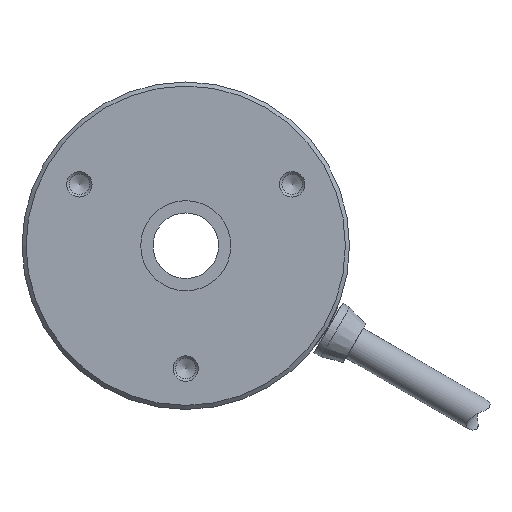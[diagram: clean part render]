
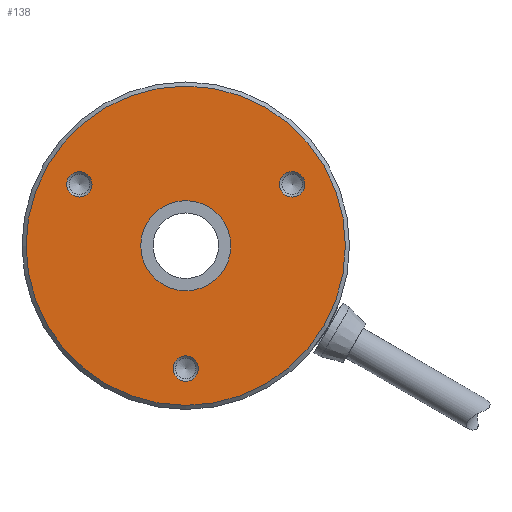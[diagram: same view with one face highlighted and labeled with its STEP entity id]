
A CAD part, left-side view. The second image highlights one B-rep face of the part: STEP entity #138.
In plain terms, the highlighted planar face has unit normal (-1, 0, 0).
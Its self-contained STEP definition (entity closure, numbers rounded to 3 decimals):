
#138=ADVANCED_FACE('',(#257,#258,#259,#260,#261),#262,.F.);
#257=FACE_BOUND('',#397,.T.);
#258=FACE_BOUND('',#398,.T.);
#259=FACE_BOUND('',#399,.T.);
#260=FACE_BOUND('',#400,.T.);
#261=FACE_OUTER_BOUND('',#401,.T.);
#262=PLANE('',#402);
#397=EDGE_LOOP('',(#563));
#398=EDGE_LOOP('',(#564));
#399=EDGE_LOOP('',(#565));
#400=EDGE_LOOP('',(#566));
#401=EDGE_LOOP('',(#567));
#402=AXIS2_PLACEMENT_3D('',#568,#569,#570);
#563=ORIENTED_EDGE('',*,*,#717,.T.);
#564=ORIENTED_EDGE('',*,*,#747,.T.);
#565=ORIENTED_EDGE('',*,*,#748,.T.);
#566=ORIENTED_EDGE('',*,*,#745,.F.);
#567=ORIENTED_EDGE('',*,*,#749,.T.);
#568=CARTESIAN_POINT('',(0.,12.5,0.0));
#569=DIRECTION('',(1.0,0.0,0.0));
#570=DIRECTION('',(0.0,0.0,-1.0));
#717=EDGE_CURVE('',#800,#800,#801,.T.);
#745=EDGE_CURVE('',#844,#844,#845,.T.);
#747=EDGE_CURVE('',#847,#847,#848,.T.);
#748=EDGE_CURVE('',#849,#849,#850,.T.);
#749=EDGE_CURVE('',#851,#851,#852,.T.);
#800=VERTEX_POINT('',#916);
#801=CIRCLE('',#917,1.55);
#844=VERTEX_POINT('',#997);
#845=CIRCLE('',#998,5.5);
#847=VERTEX_POINT('',#1000);
#848=CIRCLE('',#1001,1.55);
#849=VERTEX_POINT('',#1002);
#850=CIRCLE('',#1003,1.55);
#851=VERTEX_POINT('',#1004);
#852=CIRCLE('',#1005,19.5);
#916=CARTESIAN_POINT('',(0.,11.44,7.5));
#917=AXIS2_PLACEMENT_3D('',#1136,#1137,#1138);
#997=CARTESIAN_POINT('',(0.,0.0,5.5));
#998=AXIS2_PLACEMENT_3D('',#1179,#1180,#1181);
#1000=CARTESIAN_POINT('',(0.,-1.55,-15.0));
#1001=AXIS2_PLACEMENT_3D('',#1182,#1183,#1184);
#1002=CARTESIAN_POINT('',(0.,-14.54,7.5));
#1003=AXIS2_PLACEMENT_3D('',#1185,#1186,#1187);
#1004=CARTESIAN_POINT('',(0.,0.0,19.5));
#1005=AXIS2_PLACEMENT_3D('',#1188,#1189,#1190);
#1136=CARTESIAN_POINT('',(0.,12.99,7.5));
#1137=DIRECTION('',(1.0,0.0,0.0));
#1138=DIRECTION('',(0.0,-1.0,0.0));
#1179=CARTESIAN_POINT('',(0.,0.0,0.0));
#1180=DIRECTION('',(-1.0,0.0,0.0));
#1181=DIRECTION('',(0.0,0.0,1.0));
#1182=CARTESIAN_POINT('',(0.,0.,-15.0));
#1183=DIRECTION('',(1.0,0.0,0.0));
#1184=DIRECTION('',(0.0,-1.0,0.0));
#1185=CARTESIAN_POINT('',(0.,-12.99,7.5));
#1186=DIRECTION('',(1.0,0.0,0.0));
#1187=DIRECTION('',(0.0,-1.0,0.0));
#1188=CARTESIAN_POINT('',(0.,0.0,0.0));
#1189=DIRECTION('',(-1.0,0.0,0.0));
#1190=DIRECTION('',(0.0,0.0,1.0));
